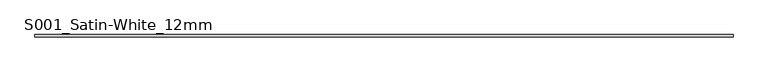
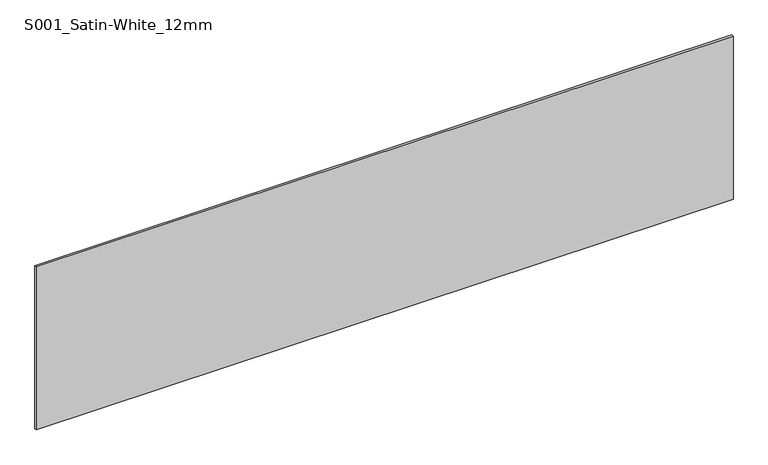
"""IFC4 building model written with IfcOpenShell, lengths in millimetres: plate geometry, Curtain-Panels_Outdoor-Material_HI-MACS_Solids : S001_Satin-White_12mm."""

from ifc_helpers import new_model, si_unit, origin, origin_with_axes, place, context, project, spatial, polyline, outline, extrude, source, transform, mapped, element, save


def s001_satin_white_12mm_b3103b5f(model_context):
    return source(origin(), model_context, "Body", "SweptSolid", [
        extrude(outline(polyline([(1840.0, 6.0), (1840.0, -6.0), (-1840.0, -6.0), (-1840.0, 6.0), (1840.0, 6.0)])), origin_with_axes(), (0.0, 0.0, 1.0), 910.0),
    ])


if __name__ == "__main__":
    model = new_model("IFC4")
    model_context = context("Model", 3, world=origin())
    ifc_project = project(units=[si_unit("LENGTHUNIT", "METRE", prefix="MILLI")], contexts=[model_context])
    site = spatial("IfcSite", under=ifc_project)
    building = spatial("IfcBuilding", under=site)
    placement = place(None, origin())
    s001_satin_white_12mm_shape = s001_satin_white_12mm_b3103b5f(model_context)
    element("IfcPlate", 1, ObjectType="Curtain-Panels_Outdoor-Material_HI-MACS_Solids : S001_Satin-White_12mm", at=placement, inside=building, context=model_context, shape_type="MappedRepresentation", body=[
        mapped(s001_satin_white_12mm_shape, transform((0.0, 0.0, 0.0), x_axis=(1.0, 0.0, 0.0), y_axis=(0.0, 1.0, 0.0), z_axis=(0.0, 0.0, 1.0))),
    ])
    save(model, "model.ifc")
